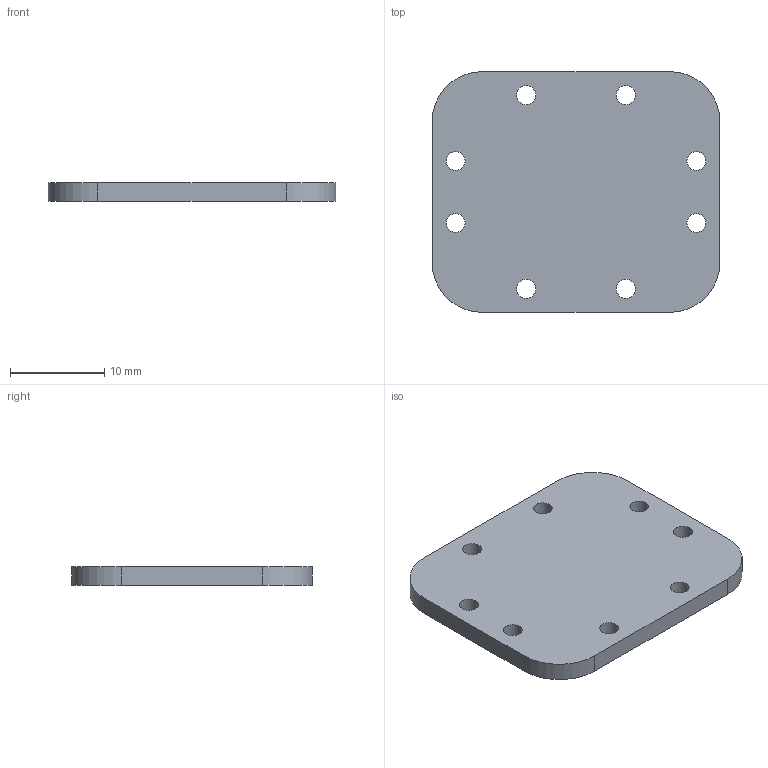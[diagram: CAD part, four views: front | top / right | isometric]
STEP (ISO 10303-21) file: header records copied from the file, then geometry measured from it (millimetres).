
FILE_DESCRIPTION(/* description */ (''),/* implementation_level */ '2;1');
FILE_NAME(/* name */ 'D:\PRJ\10 GHz divider\M-CAD\Lid.stp',/* time_stamp */ '2025-02-28T19:04:45+01:00',/* author */ ('Carsten Grøn'),/* organization */ (''),/* preprocessor_version */ 'ST-DEVELOPER v18',/* originating_system */ 'Autodesk Inventor 2020',/* authorisation */ '');
FILE_SCHEMA (('CONFIG_CONTROL_DESIGN'));
Length unit declared in the file: millimetre
Products named in the file (1): Lid
Bounding box: 30.6 x 25.6 x 2 mm (x, y, z)
Volume: 1467.6 mm3; surface area: 1775.4 mm2
Topology: 1 solids, 1 shells, 18 faces, 56 edges, 40 vertices
Faces by surface type: cylinder 12, plane 6
Full cylindrical faces by diameter (mm): 2.013 x8
Entity records: 729 total; most frequent: DIRECTION 126, CARTESIAN_POINT 115, ORIENTED_EDGE 112, EDGE_CURVE 56, AXIS2_PLACEMENT_3D 51, VERTEX_POINT 40, EDGE_LOOP 34, CIRCLE 32
